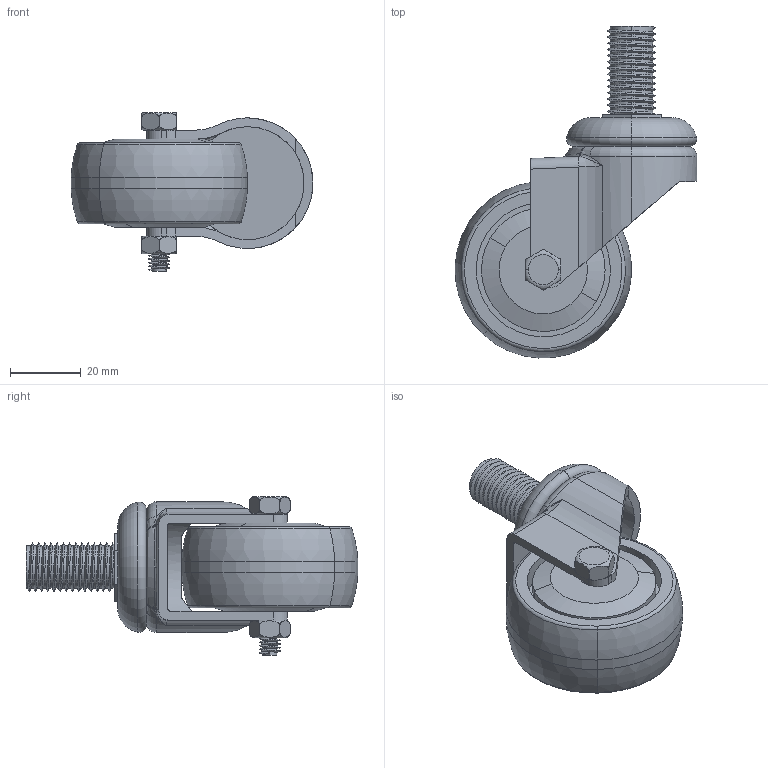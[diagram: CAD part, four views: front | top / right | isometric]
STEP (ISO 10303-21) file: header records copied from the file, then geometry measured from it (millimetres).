
FILE_DESCRIPTION (( 'STEP AP203' ), '1' );
FILE_NAME ('2PR3A.STEP', '2018-03-14T09:44:00', ( '' ), ( '' ), 'SwSTEP 2.0', 'SolidWorks 2017', '' );
FILE_SCHEMA (( 'CONFIG_CONTROL_DESIGN' ));
Length unit declared in the file: millimetre
Products named in the file (7): 活動架PR-2B; 輪蓋PR-2; 2PR3A; 牙式底盤輕型PR; 輪PR-2; 螺帽M6; 六角螺絲M6X40
Assembly tree (7 placements, depth 2):
  2PR3A
    活動架PR-2B
    輪PR-2
    六角螺絲M6X40
    螺帽M6
    輪蓋PR-2  x2
    牙式底盤輕型PR
Bounding box: 68.47 x 93.97 x 45 mm (x, y, z)
Volume: 53683.9 mm3; surface area: 28940.2 mm2
Topology: 7 solids, 7 shells, 279 faces, 716 edges, 462 vertices
Faces by surface type: cylinder 168, plane 61, torus 23, bspline 19, cone 8
Entity records: 15787 total; most frequent: CARTESIAN_POINT 9421, ORIENTED_EDGE 1352, DIRECTION 1024, EDGE_CURVE 676, VERTEX_POINT 438, AXIS2_PLACEMENT_3D 399, EDGE_LOOP 280, ADVANCED_FACE 260
